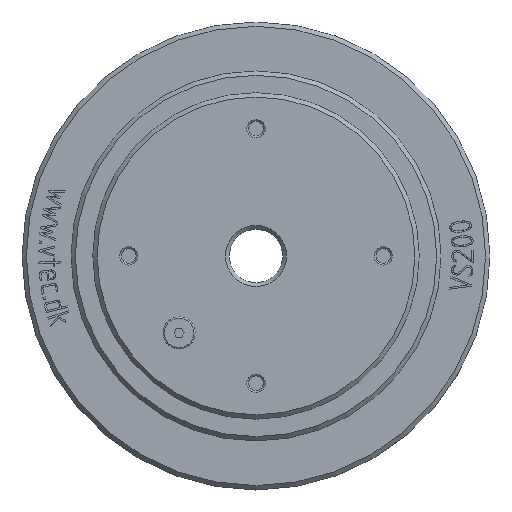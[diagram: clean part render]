
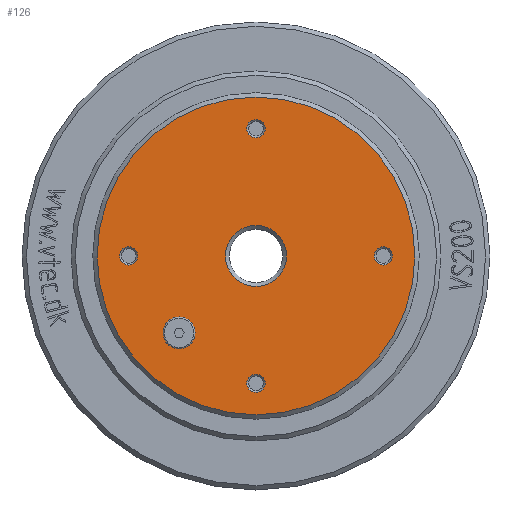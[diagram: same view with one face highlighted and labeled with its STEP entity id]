
A CAD part, top view. The second image highlights one B-rep face of the part: STEP entity #126.
In plain terms, the highlighted planar face has unit normal (0, 0, 1).
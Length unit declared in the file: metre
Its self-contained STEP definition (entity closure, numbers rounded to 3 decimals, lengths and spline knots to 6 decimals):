
#126 = ADVANCED_FACE( '', ( #394, #395, #396, #397, #398, #399, #400 ), #401, .F. );
#394 = FACE_BOUND( '', #865, .T. );
#395 = FACE_BOUND( '', #866, .T. );
#396 = FACE_BOUND( '', #867, .T. );
#397 = FACE_BOUND( '', #868, .T. );
#398 = FACE_OUTER_BOUND( '', #869, .T. );
#399 = FACE_BOUND( '', #870, .T. );
#400 = FACE_BOUND( '', #871, .T. );
#401 = PLANE( '', #872 );
#865 = EDGE_LOOP( '', ( #1887 ) );
#866 = EDGE_LOOP( '', ( #1888 ) );
#867 = EDGE_LOOP( '', ( #1889 ) );
#868 = EDGE_LOOP( '', ( #1890 ) );
#869 = EDGE_LOOP( '', ( #1891 ) );
#870 = EDGE_LOOP( '', ( #1892 ) );
#871 = EDGE_LOOP( '', ( #1893 ) );
#872 = AXIS2_PLACEMENT_3D( '', #1894, #1895, #1896 );
#1887 = ORIENTED_EDGE( '', *, *, #3195, .T. );
#1888 = ORIENTED_EDGE( '', *, *, #3196, .T. );
#1889 = ORIENTED_EDGE( '', *, *, #3197, .T. );
#1890 = ORIENTED_EDGE( '', *, *, #3103, .T. );
#1891 = ORIENTED_EDGE( '', *, *, #3198, .T. );
#1892 = ORIENTED_EDGE( '', *, *, #3199, .F. );
#1893 = ORIENTED_EDGE( '', *, *, #3200, .F. );
#1894 = CARTESIAN_POINT( '', ( 0.073, 0., 0.017 ) );
#1895 = DIRECTION( '', ( 0., 0., -1. ) );
#1896 = DIRECTION( '', ( -1., 0., 0. ) );
#3103 = EDGE_CURVE( '', #3650, #3650, #3651, .T. );
#3195 = EDGE_CURVE( '', #3801, #3801, #3802, .T. );
#3196 = EDGE_CURVE( '', #3803, #3803, #3804, .T. );
#3197 = EDGE_CURVE( '', #3805, #3805, #3806, .T. );
#3198 = EDGE_CURVE( '', #3807, #3807, #3808, .T. );
#3199 = EDGE_CURVE( '', #3809, #3809, #3810, .T. );
#3200 = EDGE_CURVE( '', #3811, #3811, #3812, .F. );
#3650 = VERTEX_POINT( '', #4956 );
#3651 = CIRCLE( '', #4957, 0.0042 );
#3801 = VERTEX_POINT( '', #5458 );
#3802 = CIRCLE( '', #5459, 0.0042 );
#3803 = VERTEX_POINT( '', #5460 );
#3804 = CIRCLE( '', #5461, 0.0042 );
#3805 = VERTEX_POINT( '', #5462 );
#3806 = CIRCLE( '', #5463, 0.0042 );
#3807 = VERTEX_POINT( '', #5464 );
#3808 = CIRCLE( '', #5465, 0.073 );
#3809 = VERTEX_POINT( '', #5466 );
#3810 = CIRCLE( '', #5467, 0.014 );
#3811 = VERTEX_POINT( '', #5468 );
#3812 = CIRCLE( '', #5469, 0.00735 );
#4956 = CARTESIAN_POINT( '', ( -0.0042, 0.0585, 0.017 ) );
#4957 = AXIS2_PLACEMENT_3D( '', #6208, #6209, #6210 );
#5458 = CARTESIAN_POINT( '', ( -0.0627, 0., 0.017 ) );
#5459 = AXIS2_PLACEMENT_3D( '', #6299, #6300, #6301 );
#5460 = CARTESIAN_POINT( '', ( -0.0042, -0.0585, 0.017 ) );
#5461 = AXIS2_PLACEMENT_3D( '', #6302, #6303, #6304 );
#5462 = CARTESIAN_POINT( '', ( 0.0543, 0., 0.017 ) );
#5463 = AXIS2_PLACEMENT_3D( '', #6305, #6306, #6307 );
#5464 = CARTESIAN_POINT( '', ( 0.073, 0., 0.017 ) );
#5465 = AXIS2_PLACEMENT_3D( '', #6308, #6309, #6310 );
#5466 = CARTESIAN_POINT( '', ( 0.014, 0., 0.017 ) );
#5467 = AXIS2_PLACEMENT_3D( '', #6311, #6312, #6313 );
#5468 = CARTESIAN_POINT( '', ( -0.042705, -0.035355, 0.017 ) );
#5469 = AXIS2_PLACEMENT_3D( '', #6314, #6315, #6316 );
#6208 = CARTESIAN_POINT( '', ( 0., 0.0585, 0.017 ) );
#6209 = DIRECTION( '', ( 0., 0., -1. ) );
#6210 = DIRECTION( '', ( -1., 0., 0. ) );
#6299 = CARTESIAN_POINT( '', ( -0.0585, 0., 0.017 ) );
#6300 = DIRECTION( '', ( 0., 0., -1. ) );
#6301 = DIRECTION( '', ( -1., 0., 0. ) );
#6302 = CARTESIAN_POINT( '', ( 0., -0.0585, 0.017 ) );
#6303 = DIRECTION( '', ( 0., 0., -1. ) );
#6304 = DIRECTION( '', ( -1., 0., 0. ) );
#6305 = CARTESIAN_POINT( '', ( 0.0585, 0., 0.017 ) );
#6306 = DIRECTION( '', ( 0., 0., -1. ) );
#6307 = DIRECTION( '', ( -1., 0., 0. ) );
#6308 = CARTESIAN_POINT( '', ( 0., 0., 0.017 ) );
#6309 = DIRECTION( '', ( 0., 0., 1. ) );
#6310 = DIRECTION( '', ( 1., 0., 0. ) );
#6311 = CARTESIAN_POINT( '', ( 0., 0., 0.017 ) );
#6312 = DIRECTION( '', ( 0., 0., 1. ) );
#6313 = DIRECTION( '', ( 1., 0., 0. ) );
#6314 = CARTESIAN_POINT( '', ( -0.035355, -0.035355, 0.017 ) );
#6315 = DIRECTION( '', ( 0., 0., -1. ) );
#6316 = DIRECTION( '', ( -1., 0., 0. ) );
